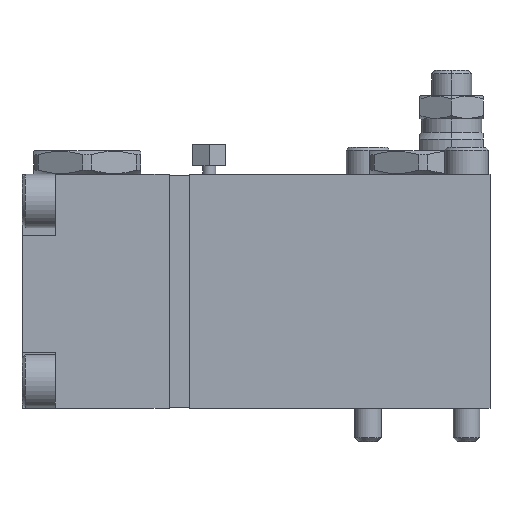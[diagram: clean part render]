
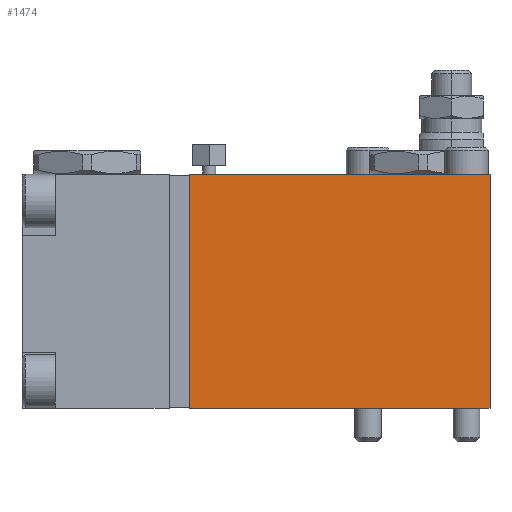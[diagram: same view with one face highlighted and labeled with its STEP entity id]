
A CAD part, front view. The second image highlights one B-rep face of the part: STEP entity #1474.
In plain terms, the highlighted planar face has unit normal (0, -1, 0).
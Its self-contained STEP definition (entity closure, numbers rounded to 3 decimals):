
#1078 = VERTEX_POINT ( 'NONE', #3630 ) ;
#1080 = EDGE_CURVE ( 'NONE', #1157, #1078, #3629, .T. ) ;
#1125 = VERTEX_POINT ( 'NONE', #3728 ) ;
#1157 = VERTEX_POINT ( 'NONE', #3792 ) ;
#1183 = EDGE_CURVE ( 'NONE', #1125, #1184, #3816, .T. ) ;
#1184 = VERTEX_POINT ( 'NONE', #3812 ) ;
#1474 = ADVANCED_FACE ( 'NONE', ( #4426 ), #4425, .T. ) ;
#1475 = EDGE_LOOP ( 'NONE', ( #1476, #1477, #1479, #1480 ) ) ;
#1476 = ORIENTED_EDGE ( 'NONE', *, *, #1183, .F. ) ;
#1477 = ORIENTED_EDGE ( 'NONE', *, *, #1478, .T. ) ;
#1478 = EDGE_CURVE ( 'NONE', #1125, #1157, #4423, .T. ) ;
#1479 = ORIENTED_EDGE ( 'NONE', *, *, #1080, .T. ) ;
#1480 = ORIENTED_EDGE ( 'NONE', *, *, #1481, .T. ) ;
#1481 = EDGE_CURVE ( 'NONE', #1078, #1184, #4416, .T. ) ;
#3626 = DIRECTION ( 'NONE',  ( 1., 0., 0. ) ) ;
#3627 = VECTOR ( 'NONE', #3626, 1000. ) ;
#3628 = CARTESIAN_POINT ( 'NONE',  ( -140., -35., -70. ) ) ;
#3629 = LINE ( 'NONE', #3628, #3627 ) ;
#3630 = CARTESIAN_POINT ( 'NONE',  ( 0., -35., -70. ) ) ;
#3728 = CARTESIAN_POINT ( 'NONE',  ( -90., -35., 0. ) ) ;
#3792 = CARTESIAN_POINT ( 'NONE',  ( -90., -35., -70. ) ) ;
#3812 = CARTESIAN_POINT ( 'NONE',  ( 0., -35., 0. ) ) ;
#3813 = DIRECTION ( 'NONE',  ( 1., 0., 0. ) ) ;
#3814 = VECTOR ( 'NONE', #3813, 1000. ) ;
#3815 = CARTESIAN_POINT ( 'NONE',  ( -140., -35., 0. ) ) ;
#3816 = LINE ( 'NONE', #3815, #3814 ) ;
#4413 = DIRECTION ( 'NONE',  ( 0., 0., 1. ) ) ;
#4414 = VECTOR ( 'NONE', #4413, 1000. ) ;
#4415 = CARTESIAN_POINT ( 'NONE',  ( 0., -35., -70. ) ) ;
#4416 = LINE ( 'NONE', #4415, #4414 ) ;
#4417 = DIRECTION ( 'NONE',  ( 0., 0., -1. ) ) ;
#4418 = VECTOR ( 'NONE', #4417, 1000. ) ;
#4419 = CARTESIAN_POINT ( 'NONE',  ( -90., -35., -69.7 ) ) ;
#4420 = DIRECTION ( 'NONE',  ( 0., 0., -1. ) ) ;
#4421 = DIRECTION ( 'NONE',  ( 0., -1., 0. ) ) ;
#4422 = CARTESIAN_POINT ( 'NONE',  ( -140., -35., -70. ) ) ;
#4423 = LINE ( 'NONE', #4419, #4418 ) ;
#4424 = AXIS2_PLACEMENT_3D ( 'NONE', #4422, #4421, #4420 ) ;
#4425 = PLANE ( 'NONE',  #4424 ) ;
#4426 = FACE_OUTER_BOUND ( 'NONE', #1475, .T. ) ;
